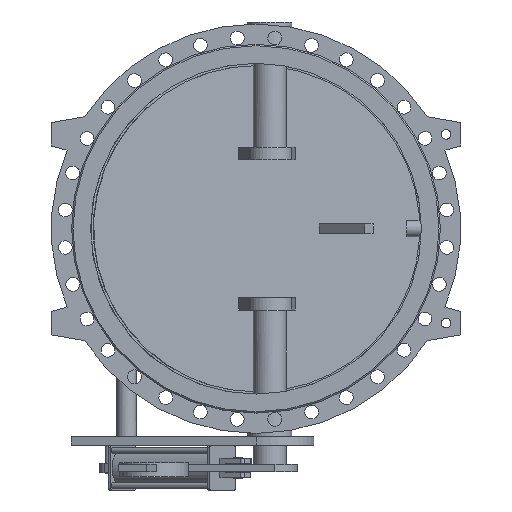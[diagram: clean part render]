
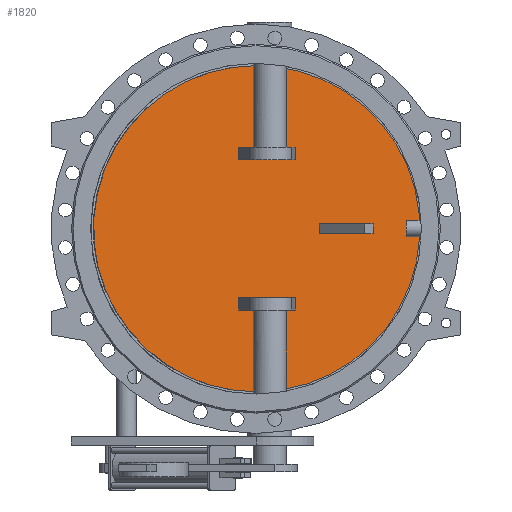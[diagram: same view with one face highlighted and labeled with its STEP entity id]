
A CAD part, front view. The second image highlights one B-rep face of the part: STEP entity #1820.
In plain terms, the highlighted planar face has unit normal (0.131, -0.991, 0).
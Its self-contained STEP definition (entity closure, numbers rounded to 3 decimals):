
#1820=ADVANCED_FACE('',(#4085,#4087,#4089,#4091),#4093,.T.);
#4085=FACE_BOUND('',#4086,.T.);
#4086=EDGE_LOOP('',(#5306));
#4087=FACE_BOUND('',#4088,.T.);
#4088=EDGE_LOOP('',(#5307,#5308,#5309,#5310));
#4089=FACE_BOUND('',#4090,.T.);
#4090=EDGE_LOOP('',(#5311,#5312,#5313,#5314));
#4091=FACE_BOUND('',#4092,.T.);
#4092=EDGE_LOOP('',(#5315,#5316,#5317,#5318));
#4093=PLANE('',#4094);
#4094=AXIS2_PLACEMENT_3D('',#4095,#4096,#4097);
#4095=CARTESIAN_POINT('',(-1.272,9.66,0.));
#4096=DIRECTION('',(0.131,-0.991,0.));
#4097=DIRECTION('',(0.,0.,-1.));
#5306=ORIENTED_EDGE('',*,*,#5855,.T.);
#5307=ORIENTED_EDGE('',*,*,#5872,.F.);
#5308=ORIENTED_EDGE('',*,*,#5873,.F.);
#5309=ORIENTED_EDGE('',*,*,#5874,.F.);
#5310=ORIENTED_EDGE('',*,*,#5875,.F.);
#5311=ORIENTED_EDGE('',*,*,#5876,.F.);
#5312=ORIENTED_EDGE('',*,*,#5877,.F.);
#5313=ORIENTED_EDGE('',*,*,#5878,.F.);
#5314=ORIENTED_EDGE('',*,*,#5879,.F.);
#5315=ORIENTED_EDGE('',*,*,#5880,.F.);
#5316=ORIENTED_EDGE('',*,*,#5881,.F.);
#5317=ORIENTED_EDGE('',*,*,#5882,.F.);
#5318=ORIENTED_EDGE('',*,*,#5883,.F.);
#5855=EDGE_CURVE('',#6695,#6695,#6696,.T.);
#5872=EDGE_CURVE('',#6729,#6730,#6731,.T.);
#5873=EDGE_CURVE('',#6732,#6729,#6733,.F.);
#5874=EDGE_CURVE('',#6734,#6732,#6735,.T.);
#5875=EDGE_CURVE('',#6730,#6734,#6736,.T.);
#5876=EDGE_CURVE('',#6737,#6738,#6739,.F.);
#5877=EDGE_CURVE('',#6740,#6737,#6741,.T.);
#5878=EDGE_CURVE('',#6742,#6740,#6743,.T.);
#5879=EDGE_CURVE('',#6738,#6742,#6744,.T.);
#5880=EDGE_CURVE('',#6745,#6746,#6747,.T.);
#5881=EDGE_CURVE('',#6748,#6745,#6749,.F.);
#5882=EDGE_CURVE('',#6750,#6748,#6751,.F.);
#5883=EDGE_CURVE('',#6746,#6750,#6752,.F.);
#6695=VERTEX_POINT('',#9991);
#6696=(BOUNDED_CURVE()B_SPLINE_CURVE(3,
(#9992,#9993,#9994,#9995,#9996,#9997,#9998,#9999,#10000,#10001,#10002,#10003,#10004,
#10005,#10006,#10007,#10008,#10009,#10010,#10011,#10012,#10013,#10014,#10015,#10016,
#10017,#10018,#10019,#10020,#10021,#10022,#10023,#10024,#10025,#10026,#10027,#10028,
#10029,#10030,#10031,#10032,#10033,#10034,#10035,#10036,#10037,#10038,#10039,#10040,
#10041,#10042),
.UNSPECIFIED.,.T.,.F.)B_SPLINE_CURVE_WITH_KNOTS((4,1,1,1,1,1,1,1,1,1,1,1,1,1,1,1,
1,1,1,1,1,1,1,1,1,1,1,1,1,1,1,1,1,1,1,1,1,1,1,1,1,1,1,1,1,1,1,1,4),
(0.,0.021,0.042,0.063,0.084,
0.105,0.126,0.147,0.168,0.189,
0.211,0.232,0.253,0.274,0.295,
0.316,0.337,0.358,0.379,0.4,
0.421,0.442,0.463,0.484,0.505,
0.527,0.548,0.569,0.59,0.611,
0.632,0.653,0.674,0.695,0.716,
0.737,0.758,0.779,0.8,0.821,
0.842,0.863,0.885,0.906,0.927,
0.948,0.969,0.986,1.),
.UNSPECIFIED.)CURVE()GEOMETRIC_REPRESENTATION_ITEM()RATIONAL_B_SPLINE_CURVE((1.,
1.,1.,1.,1.,1.,1.,1.,1.,1.,1.,1.,1.,1.,1.,1.,1.,1.,1.,1.,1.,1.,1.,1.,1.,1.,1.,1.,
1.,1.,1.,1.,1.,1.,1.,1.,1.,1.,1.,1.,1.,1.,1.,1.,1.,1.,1.,1.,1.,1.,1.))REPRESENTATION_ITEM(
''));
#6729=VERTEX_POINT('',#10426);
#6730=VERTEX_POINT('',#10427);
#6731=LINE('',#10428,#10429);
#6732=VERTEX_POINT('',#10431);
#6733=LINE('',#10432,#10433);
#6734=VERTEX_POINT('',#10435);
#6735=LINE('',#10436,#10437);
#6736=LINE('',#10439,#10440);
#6737=VERTEX_POINT('',#10442);
#6738=VERTEX_POINT('',#10443);
#6739=LINE('',#10444,#10445);
#6740=VERTEX_POINT('',#10447);
#6741=LINE('',#10448,#10449);
#6742=VERTEX_POINT('',#10451);
#6743=LINE('',#10452,#10453);
#6744=LINE('',#10455,#10456);
#6745=VERTEX_POINT('',#10458);
#6746=VERTEX_POINT('',#10459);
#6747=LINE('',#10460,#10461);
#6748=VERTEX_POINT('',#10463);
#6749=LINE('',#10464,#10465);
#6750=VERTEX_POINT('',#10467);
#6751=LINE('',#10468,#10469);
#6752=LINE('',#10471,#10472);
#9991=CARTESIAN_POINT('',(2.611,10.171,592.));
#9992=CARTESIAN_POINT('',(2.611,10.171,592.));
#9993=CARTESIAN_POINT('',(-23.409,6.746,592.));
#9994=CARTESIAN_POINT('',(-75.508,-0.113,588.561));
#9995=CARTESIAN_POINT('',(-152.394,-10.236,573.144));
#9996=CARTESIAN_POINT('',(-226.675,-20.015,547.685));
#9997=CARTESIAN_POINT('',(-296.984,-29.271,512.622));
#9998=CARTESIAN_POINT('',(-362.029,-37.835,468.6));
#9999=CARTESIAN_POINT('',(-420.688,-45.557,416.384));
#10000=CARTESIAN_POINT('',(-471.934,-52.304,356.896));
#10001=CARTESIAN_POINT('',(-514.877,-57.957,291.176));
#10002=CARTESIAN_POINT('',(-548.769,-62.419,220.375));
#10003=CARTESIAN_POINT('',(-573.023,-65.612,145.729));
#10004=CARTESIAN_POINT('',(-587.217,-67.481,68.541));
#10005=CARTESIAN_POINT('',(-591.105,-67.993,-9.844));
#10006=CARTESIAN_POINT('',(-584.62,-67.139,-88.057));
#10007=CARTESIAN_POINT('',(-567.873,-64.934,-164.737));
#10008=CARTESIAN_POINT('',(-541.154,-61.417,-238.545));
#10009=CARTESIAN_POINT('',(-504.926,-56.647,-308.191));
#10010=CARTESIAN_POINT('',(-459.818,-50.709,-372.458));
#10011=CARTESIAN_POINT('',(-406.614,-43.704,-430.221));
#10012=CARTESIAN_POINT('',(-346.242,-35.756,-480.466));
#10013=CARTESIAN_POINT('',(-279.755,-27.003,-522.309));
#10014=CARTESIAN_POINT('',(-208.316,-17.598,-555.013));
#10015=CARTESIAN_POINT('',(-133.176,-7.705,-578.001));
#10016=CARTESIAN_POINT('',(-55.653,2.501,-590.868));
#10017=CARTESIAN_POINT('',(22.891,12.841,-593.387));
#10018=CARTESIAN_POINT('',(101.078,23.135,-585.513));
#10019=CARTESIAN_POINT('',(177.534,33.2,-567.386));
#10020=CARTESIAN_POINT('',(250.92,42.862,-539.328));
#10021=CARTESIAN_POINT('',(319.949,51.95,-501.833));
#10022=CARTESIAN_POINT('',(383.415,60.305,-455.564));
#10023=CARTESIAN_POINT('',(440.209,67.782,-401.332));
#10024=CARTESIAN_POINT('',(489.343,74.251,-340.091));
#10025=CARTESIAN_POINT('',(529.96,79.598,-272.913));
#10026=CARTESIAN_POINT('',(561.356,83.731,-200.972));
#10027=CARTESIAN_POINT('',(582.986,86.579,-125.526));
#10028=CARTESIAN_POINT('',(594.473,88.091,-47.889));
#10029=CARTESIAN_POINT('',(595.62,88.242,30.583));
#10030=CARTESIAN_POINT('',(586.405,87.029,108.523));
#10031=CARTESIAN_POINT('',(566.987,84.473,184.572));
#10032=CARTESIAN_POINT('',(537.704,80.617,257.403));
#10033=CARTESIAN_POINT('',(499.062,75.53,325.744));
#10034=CARTESIAN_POINT('',(451.733,69.299,388.397));
#10035=CARTESIAN_POINT('',(396.537,62.033,444.269));
#10036=CARTESIAN_POINT('',(334.456,53.859,492.362));
#10037=CARTESIAN_POINT('',(266.649,44.932,531.797));
#10038=CARTESIAN_POINT('',(194.096,35.381,562.018));
#10039=CARTESIAN_POINT('',(122.536,25.96,581.218));
#10040=CARTESIAN_POINT('',(58.198,17.489,590.338));
#10041=CARTESIAN_POINT('',(19.599,12.408,592.));
#10042=CARTESIAN_POINT('',(2.611,10.171,592.));
#10426=CARTESIAN_POINT('',(398.546,62.297,-17.5));
#10427=CARTESIAN_POINT('',(398.546,62.297,17.5));
#10428=CARTESIAN_POINT('',(398.546,62.297,-17.5));
#10429=VECTOR('',#10430,1.);
#10430=DIRECTION('',(0.,0.,1.));
#10431=CARTESIAN_POINT('',(230.,40.107,-17.5));
#10432=CARTESIAN_POINT('',(398.546,62.297,-17.5));
#10433=VECTOR('',#10434,1.);
#10434=DIRECTION('',(-0.991,-0.131,0.));
#10435=CARTESIAN_POINT('',(230.,40.107,17.5));
#10436=CARTESIAN_POINT('',(230.,40.107,17.5));
#10437=VECTOR('',#10438,1.);
#10438=DIRECTION('',(0.,0.,-1.));
#10439=CARTESIAN_POINT('',(398.546,62.297,17.5));
#10440=VECTOR('',#10441,1.);
#10441=DIRECTION('',(-0.991,-0.131,0.));
#10442=CARTESIAN_POINT('',(-62.127,1.648,-295.));
#10443=CARTESIAN_POINT('',(142.351,28.568,-295.));
#10444=CARTESIAN_POINT('',(142.351,28.568,-295.));
#10445=VECTOR('',#10446,1.);
#10446=DIRECTION('',(-0.991,-0.131,0.));
#10447=CARTESIAN_POINT('',(-62.127,1.648,-250.));
#10448=CARTESIAN_POINT('',(-62.127,1.648,-250.));
#10449=VECTOR('',#10450,1.);
#10450=DIRECTION('',(0.,0.,-1.));
#10451=CARTESIAN_POINT('',(142.351,28.568,-250.));
#10452=CARTESIAN_POINT('',(142.351,28.568,-250.));
#10453=VECTOR('',#10454,1.);
#10454=DIRECTION('',(-0.991,-0.131,0.));
#10455=CARTESIAN_POINT('',(142.351,28.568,-295.));
#10456=VECTOR('',#10457,1.);
#10457=DIRECTION('',(0.,0.,1.));
#10458=CARTESIAN_POINT('',(142.351,28.568,295.));
#10459=CARTESIAN_POINT('',(-62.127,1.648,295.));
#10460=CARTESIAN_POINT('',(142.351,28.568,295.));
#10461=VECTOR('',#10462,1.);
#10462=DIRECTION('',(-0.991,-0.131,0.));
#10463=CARTESIAN_POINT('',(142.351,28.568,250.));
#10464=CARTESIAN_POINT('',(142.351,28.568,295.));
#10465=VECTOR('',#10466,1.);
#10466=DIRECTION('',(0.,0.,-1.));
#10467=CARTESIAN_POINT('',(-62.127,1.648,250.));
#10468=CARTESIAN_POINT('',(142.351,28.568,250.));
#10469=VECTOR('',#10470,1.);
#10470=DIRECTION('',(-0.991,-0.131,0.));
#10471=CARTESIAN_POINT('',(-62.127,1.648,250.));
#10472=VECTOR('',#10473,1.);
#10473=DIRECTION('',(0.,0.,1.));
